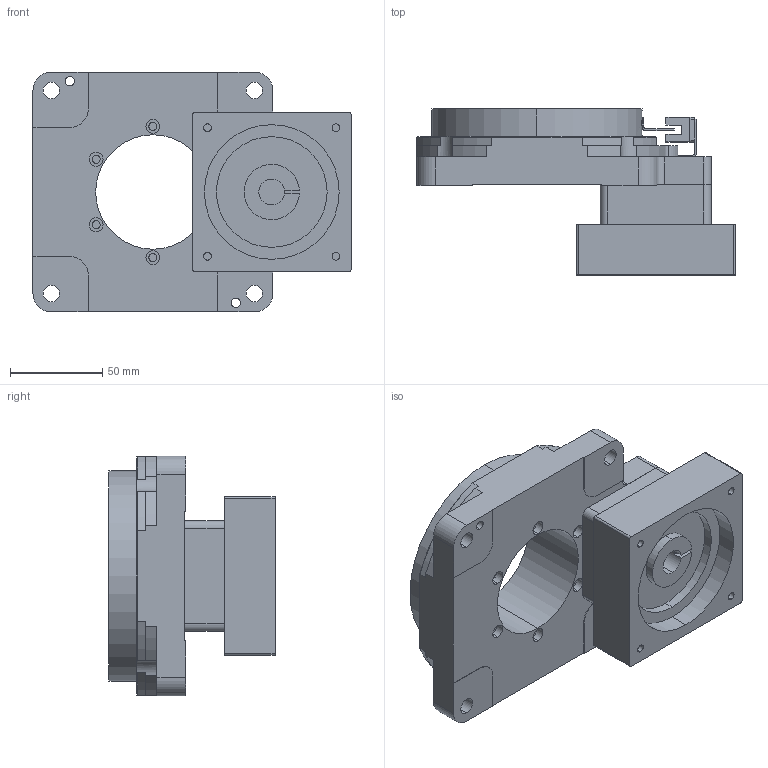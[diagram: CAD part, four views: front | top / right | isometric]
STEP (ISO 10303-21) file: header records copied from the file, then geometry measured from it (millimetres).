
FILE_DESCRIPTION(('Open CASCADE Model'),'2;1');
FILE_NAME('Open CASCADE Shape Model','2026-10-11T02:42:06',('Author'),( 'Open CASCADE'),'Open CASCADE STEP processor 7.8','Open CASCADE 7.8' ,'Unknown');
FILE_SCHEMA(('AUTOMOTIVE_DESIGN { 1 0 10303 214 1 1 1 1 }'));
Length unit declared in the file: millimetre
Products named in the file (3): NT130-K-10-B3(配86步进 输入14-73-69.6-M5); NT130-10(配86步进 输入14-37.5 73-6 4-M5-69.6-69.6)-01; NT130-10(配86步进 输入14-37.5 73-6 4-M5-69.6-69.6)-02
Assembly tree (2 placements, depth 2):
  NT130-K-10-B3(配86步进 输入14-73-69.6-M5)
    NT130-10(配86步进 输入14-37.5 73-6 4-M5-69.6-69.6)-01
    NT130-10(配86步进 输入14-37.5 73-6 4-M5-69.6-69.6)-02
Bounding box: 172.4 x 90 x 130 mm (x, y, z)
Volume: 674199.7 mm3; surface area: 102366.3 mm2
Topology: 5 solids, 5 shells, 964 faces, 2645 edges, 1736 vertices
Faces by surface type: plane 751, cylinder 177, cone 36
Entity records: 64548 total; most frequent: CARTESIAN_POINT 14060, DIRECTION 8697, LINE 5901, VECTOR 5901, ORIENTED_EDGE 5234, PCURVE 5234, DEFINITIONAL_REPRESENTATION 5234, EDGE_CURVE 2617
